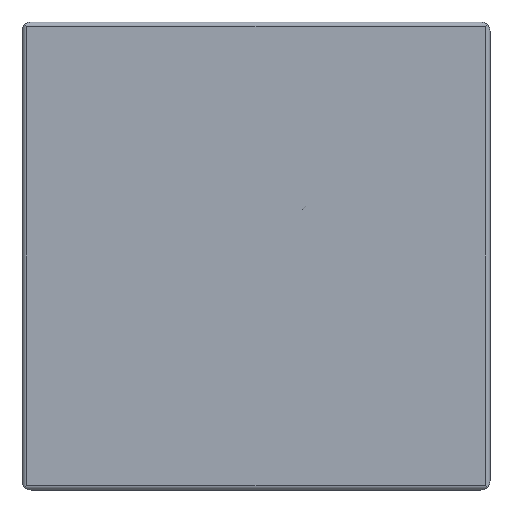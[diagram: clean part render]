
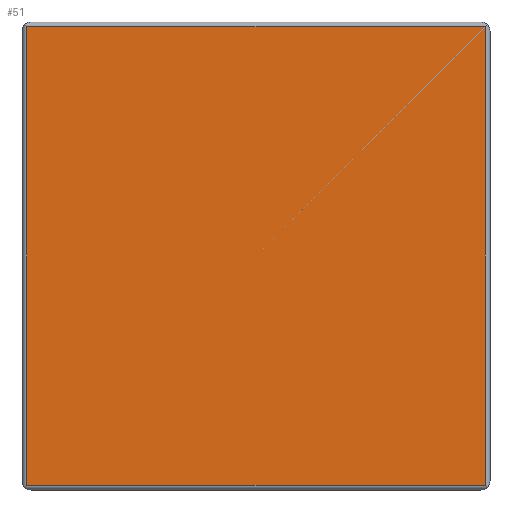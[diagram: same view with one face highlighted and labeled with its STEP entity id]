
A CAD part, front view. The second image highlights one B-rep face of the part: STEP entity #51.
In plain terms, the highlighted planar face has unit normal (0, -1, 0).
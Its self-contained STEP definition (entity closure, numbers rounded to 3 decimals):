
#51 = ADVANCED_FACE( '', ( #122 ), #123, .F. );
#122 = FACE_OUTER_BOUND( '', #215, .T. );
#123 = PLANE( '', #216 );
#215 = EDGE_LOOP( '', ( #302, #303, #304, #305 ) );
#216 = AXIS2_PLACEMENT_3D( '', #306, #307, #308 );
#302 = ORIENTED_EDGE( '', *, *, #538, .T. );
#303 = ORIENTED_EDGE( '', *, *, #539, .F. );
#304 = ORIENTED_EDGE( '', *, *, #540, .F. );
#305 = ORIENTED_EDGE( '', *, *, #541, .T. );
#306 = CARTESIAN_POINT( '', ( -8., -28., 24. ) );
#307 = DIRECTION( '', ( 0., 1., 0. ) );
#308 = DIRECTION( '', ( 0., 0., 1. ) );
#538 = EDGE_CURVE( '', #629, #630, #631, .T. );
#539 = EDGE_CURVE( '', #632, #630, #633, .T. );
#540 = EDGE_CURVE( '', #634, #632, #635, .T. );
#541 = EDGE_CURVE( '', #634, #629, #636, .T. );
#629 = VERTEX_POINT( '', #764 );
#630 = VERTEX_POINT( '', #765 );
#631 = LINE( '', #766, #767 );
#632 = VERTEX_POINT( '', #768 );
#633 = LINE( '', #769, #770 );
#634 = VERTEX_POINT( '', #771 );
#635 = LINE( '', #772, #773 );
#636 = LINE( '', #774, #775 );
#764 = CARTESIAN_POINT( '', ( -8.5, -28., 24.5 ) );
#765 = CARTESIAN_POINT( '', ( -8.5, -28., -24.5 ) );
#766 = CARTESIAN_POINT( '', ( -8.5, -28., 30. ) );
#767 = VECTOR( '', #1014, 1000. );
#768 = CARTESIAN_POINT( '', ( 40.5, -28., -24.5 ) );
#769 = CARTESIAN_POINT( '', ( 50., -28., -24.5 ) );
#770 = VECTOR( '', #1015, 1000. );
#771 = CARTESIAN_POINT( '', ( 40.5, -28., 24.5 ) );
#772 = CARTESIAN_POINT( '', ( 40.5, -28., 30. ) );
#773 = VECTOR( '', #1016, 1000. );
#774 = CARTESIAN_POINT( '', ( 50., -28., 24.5 ) );
#775 = VECTOR( '', #1017, 1000. );
#1014 = DIRECTION( '', ( 0., 0., -1. ) );
#1015 = DIRECTION( '', ( -1., 0., 0. ) );
#1016 = DIRECTION( '', ( 0., 0., -1. ) );
#1017 = DIRECTION( '', ( -1., 0., 0. ) );
